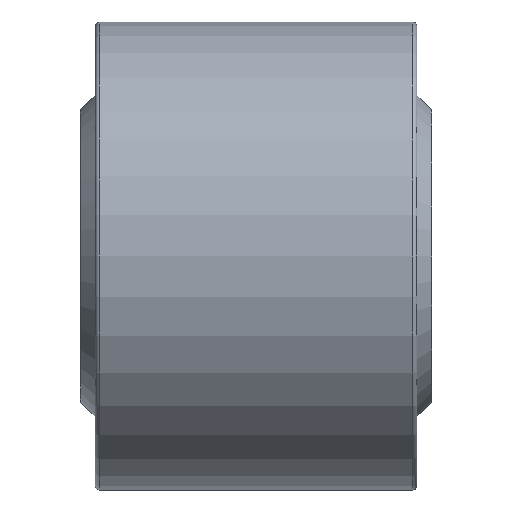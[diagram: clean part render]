
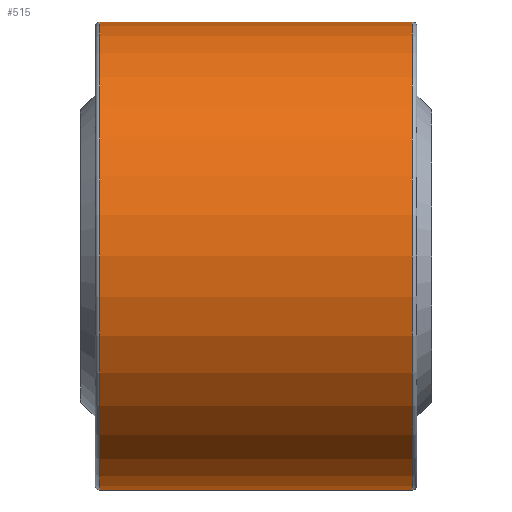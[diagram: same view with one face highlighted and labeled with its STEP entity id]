
A CAD part, front view. The second image highlights one B-rep face of the part: STEP entity #515.
In plain terms, the highlighted cylindrical face has radius 8 mm (diameter 16 mm), a full revolution.
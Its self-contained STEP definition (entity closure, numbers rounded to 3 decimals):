
#135=CYLINDRICAL_SURFACE('',#565,8.);
#153=FACE_BOUND('',#235,.T.);
#192=FACE_OUTER_BOUND('',#234,.T.);
#234=EDGE_LOOP('',(#434));
#235=EDGE_LOOP('',(#435));
#313=CIRCLE('',#564,8.);
#314=CIRCLE('',#566,8.);
#353=VERTEX_POINT('',#886);
#354=VERTEX_POINT('',#889);
#393=EDGE_CURVE('',#353,#353,#313,.T.);
#394=EDGE_CURVE('',#354,#354,#314,.T.);
#434=ORIENTED_EDGE('',*,*,#394,.F.);
#435=ORIENTED_EDGE('',*,*,#393,.F.);
#515=ADVANCED_FACE('',(#192,#153),#135,.T.);
#564=AXIS2_PLACEMENT_3D('',#887,#674,#675);
#565=AXIS2_PLACEMENT_3D('',#888,#676,#677);
#566=AXIS2_PLACEMENT_3D('',#890,#678,#679);
#674=DIRECTION('center_axis',(-1.,0.,0.));
#675=DIRECTION('ref_axis',(0.,-1.,0.));
#676=DIRECTION('center_axis',(1.,0.,0.));
#677=DIRECTION('ref_axis',(0.,1.,0.));
#678=DIRECTION('center_axis',(1.,0.,0.));
#679=DIRECTION('ref_axis',(0.,-1.,0.));
#886=CARTESIAN_POINT('',(-5.35,8.,0.));
#887=CARTESIAN_POINT('Origin',(-5.35,0.,0.));
#888=CARTESIAN_POINT('Origin',(0.,0.,
0.));
#889=CARTESIAN_POINT('',(5.35,8.,0.));
#890=CARTESIAN_POINT('Origin',(5.35,0.,0.));
